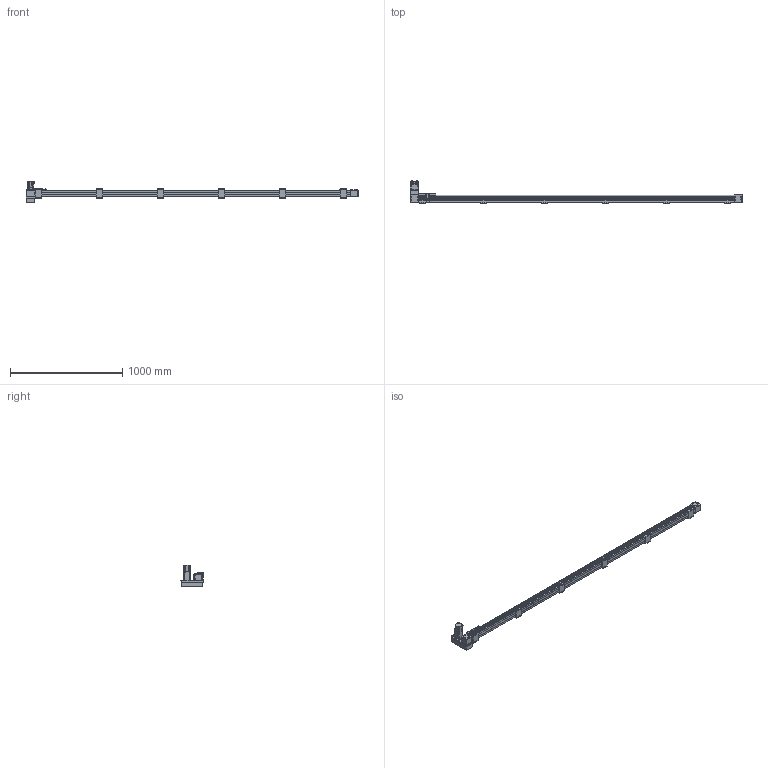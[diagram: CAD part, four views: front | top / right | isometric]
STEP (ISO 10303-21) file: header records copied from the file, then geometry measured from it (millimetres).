
FILE_DESCRIPTION(/* description */ ('STEP AP214'),/* implementation_level */ '2;1');
FILE_NAME(/* name */ 'SK60-P13-S2650-LU-T40-C1-N(0)',/* time_stamp */ '2023-04-06T04:48:52+02:00',/* author */ ('License CC BY-ND 4.0'),/* organization */ ('CADENAS'),/* preprocessor_version */ 'ST-DEVELOPER v19.3',/* originating_system */ 'PARTsolutions',/* authorisation */ ' ');
FILE_SCHEMA (('AUTOMOTIVE_DESIGN {1 0 10303 214 3 1 1}'));
Length unit declared in the file: millimetre
Products named in the file (10): SK60-P13-S2650-LU-T40-C1-N(0); PSC140-sensor; SK60-S450_seat; SK60-S450-BL-C1_slider; SK60_body3; SK60_body6; SK60-BL_body2; T40-p1; SK60-LU_fb; SK60-S2650-LU-C1_body
Assembly tree (20 placements, depth 2):
  SK60-P13-S2650-LU-T40-C1-N(0)
    PSC140-sensor  x3
    SK60-S450_seat  x6
    SK60-S450-BL-C1_slider
    SK60_body3  x3
    SK60_body6  x2
    SK60-BL_body2  x2
    T40-p1
    SK60-LU_fb
    SK60-S2650-LU-C1_body
Bounding box: 2955.5 x 201 x 189.7 mm (x, y, z)
Volume: 11253717.6 mm3; surface area: 1327566.1 mm2
Topology: 20 solids, 20 shells, 986 faces, 2440 edges, 1605 vertices
Faces by surface type: plane 620, cylinder 326, cone 38, torus 2
Full cylindrical faces by diameter (mm): 2.8 x3, 3.3 x4, 4 x2, 4.5 x30, 4.6 x3, 4.917 x32, 5 x6, 5.478 x4, 5.5 x35, 6.5 x12, 7 x2, 8 x4, 8.5 x4, 9.988 x4, 10 x24, 14 x1, 47 x3, 50 x2
Entity records: 18687 total; most frequent: DIRECTION 3192, CARTESIAN_POINT 3154, ORIENTED_EDGE 2940, EDGE_CURVE 1470, AXIS2_PLACEMENT_3D 1072, LINE 1048, VECTOR 1048, VERTEX_POINT 1034
